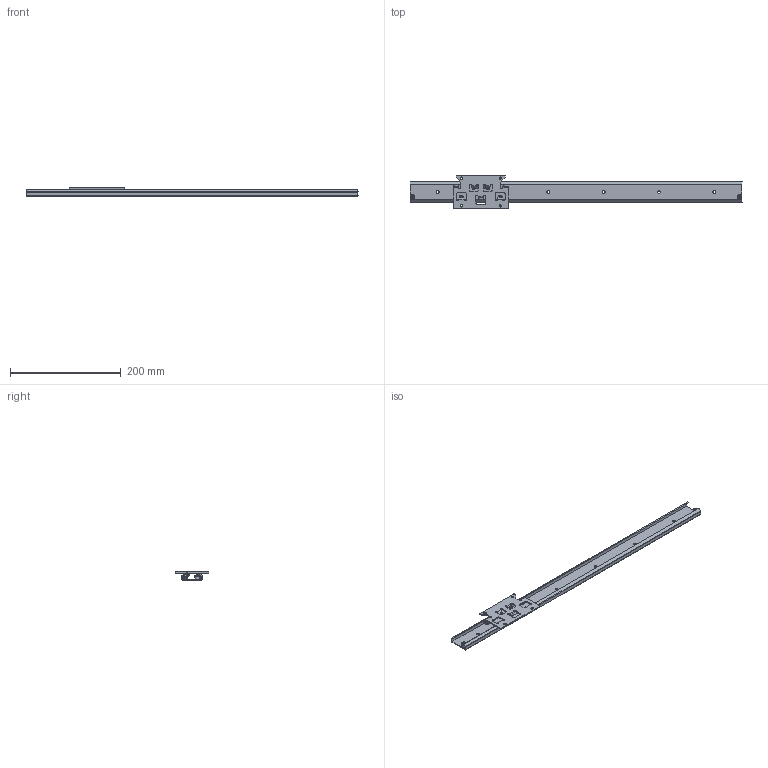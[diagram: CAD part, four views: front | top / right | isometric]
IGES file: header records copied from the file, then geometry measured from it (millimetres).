
Global section: native system: Kubotek KeyCreator; preprocessor: KCM Version 1.1.1442.0; author: KeyCreator User; organization: Self; date: 20181022.104533; units: millimetre
Bounding box: 600 x 60 x 14.8 mm (x, y, z)
Surface area: 89121.4 mm2 (no closed solid volume)
Topology: 0 solids, 0 shells, 915 faces, 6023 edges, 6024 vertices
Faces by surface type: bspline 915
